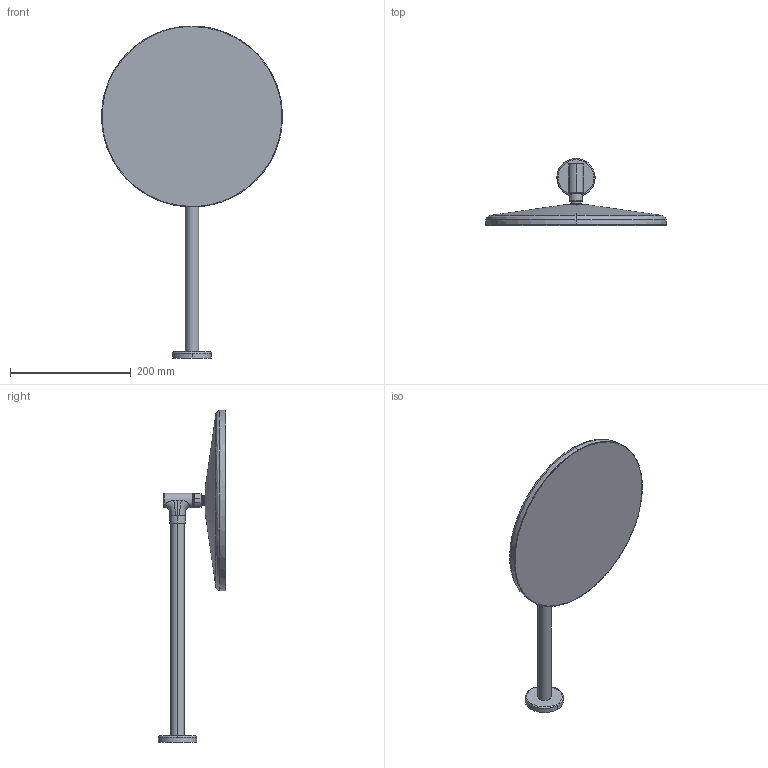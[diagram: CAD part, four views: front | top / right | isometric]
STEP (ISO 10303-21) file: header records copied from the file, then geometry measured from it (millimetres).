
FILE_DESCRIPTION (( 'STEP AP203' ), '1' );
FILE_NAME ('47260300(2024).STEP', '2024-01-12T07:46:12', ( '' ), ( '' ), 'SwSTEP 2.0', 'SolidWorks 2016', '' );
FILE_SCHEMA (( 'CONFIG_CONTROL_DESIGN' ));
Length unit declared in the file: millimetre
Products named in the file (1): 47260300(2024)
Bounding box: 300 x 111.68 x 550.5 mm (x, y, z)
Volume: 1787003.6 mm3; surface area: 193184.1 mm2
Topology: 1 solids, 1 shells, 72 faces, 197 edges, 134 vertices
Faces by surface type: bspline 43, cylinder 16, plane 11, cone 2
Entity records: 6725 total; most frequent: CARTESIAN_POINT 5043, ORIENTED_EDGE 394, DIRECTION 285, EDGE_CURVE 197, VERTEX_POINT 134, AXIS2_PLACEMENT_3D 132, CIRCLE 102, EDGE_LOOP 79
